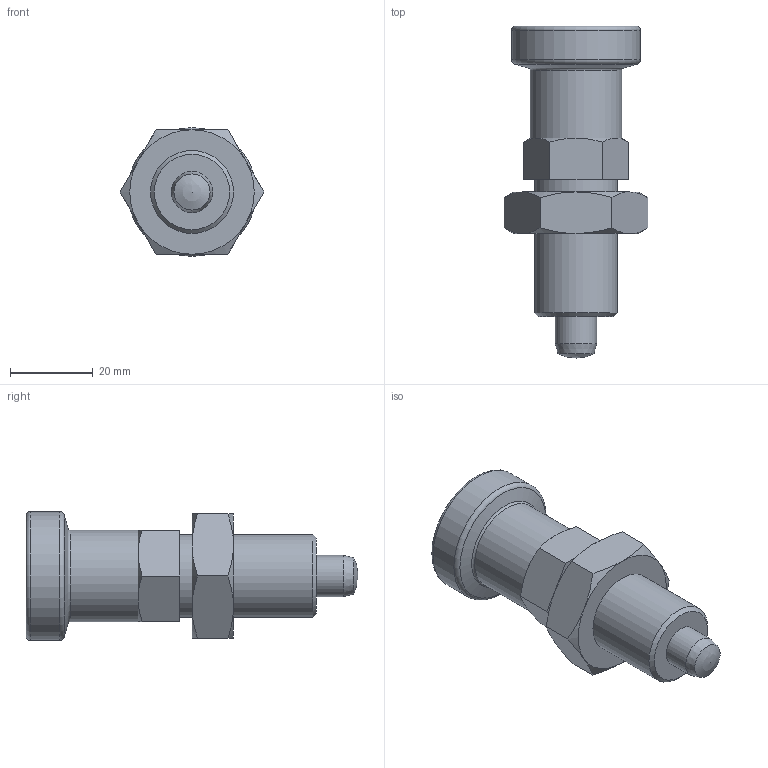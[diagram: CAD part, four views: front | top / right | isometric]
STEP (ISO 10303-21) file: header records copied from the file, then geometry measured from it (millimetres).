
FILE_DESCRIPTION( ( 'STEP AP203' ), '1' );
FILE_NAME( 'C:/Temp/Ganter_Step_05_03_2020/data/3_1/gn617_n/gn617n_ak/Stainless Steel Indexing plunger GN 617-10-AK-NI (deactivated-3).stp', '2020-03-12T08:43:01', ( 'License CC BY-ND 4.0' ), ( 'CADENAS' ), ' ', 'PARTsolutions', ' ' );
FILE_SCHEMA( ( 'CONFIG_CONTROL_DESIGN' ) );
Length unit declared in the file: millimetre
Products named in the file (4): Stainless Steel Indexing plunger GN 617-10-AK-NI (deactivated-3); _STAINLESS STEEL - Indexing plunger GN 617-10-AK-NI (3) -2; _Indexing plunger GN 617-10-AK-NI (0 3)-1; _STAINLESS STEEL - Indexing plunger GN 617-10-AK-NI-3
Assembly tree (3 placements, depth 2):
  Stainless Steel Indexing plunger GN 617-10-AK-NI (deactivated-3)
    _STAINLESS STEEL - Indexing plunger GN 617-10-AK-NI (3) -2
    _Indexing plunger GN 617-10-AK-NI (0 3)-1
    _STAINLESS STEEL - Indexing plunger GN 617-10-AK-NI-3
Bounding box: 34.64 x 80 x 31 mm (x, y, z)
Volume: 32042.9 mm3; surface area: 13497.4 mm2
Topology: 3 solids, 3 shells, 61 faces, 122 edges, 72 vertices
Faces by surface type: plane 23, cone 23, cylinder 10, torus 3, bspline 1, sphere 1
Full cylindrical faces by diameter (mm): 10 x4, 18 x2, 18.376 x1, 20 x1, 21.99 x1, 31 x1
Entity records: 1768 total; most frequent: CARTESIAN_POINT 488, DIRECTION 238, ORIENTED_EDGE 200, AXIS2_PLACEMENT_3D 110, EDGE_CURVE 100, EDGE_LOOP 90, FACE_OUTER_BOUND 74, VERTEX_POINT 72
